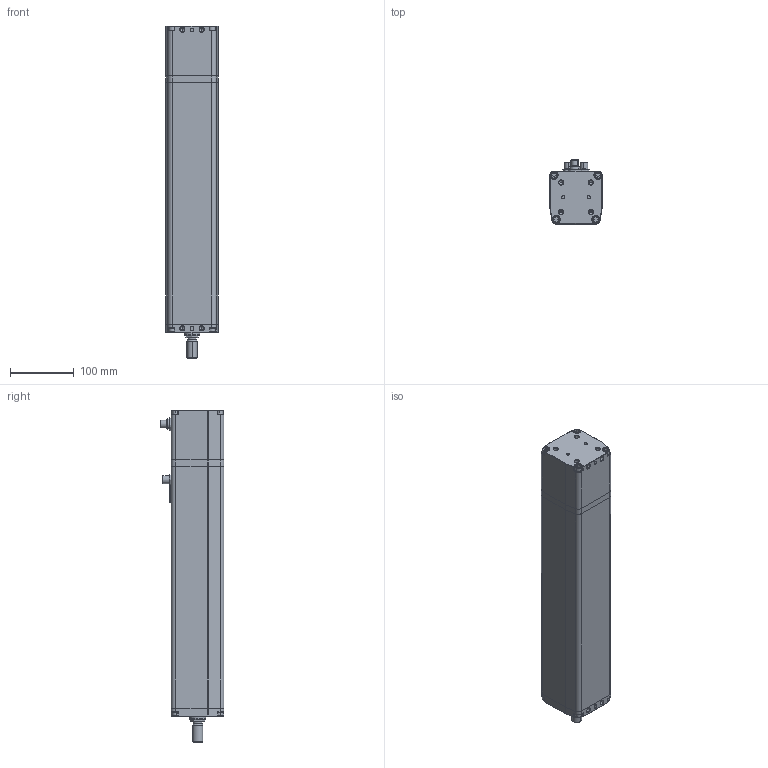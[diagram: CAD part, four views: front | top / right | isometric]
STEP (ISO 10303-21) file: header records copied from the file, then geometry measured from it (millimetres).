
FILE_DESCRIPTION (( 'STEP AP203' ), '1' );
FILE_NAME ('CTC-080-K__-____-_.step', '2023-09-29T09:29:24', ( '' ), ( '' ), 'SwSTEP 2.0', 'SolidWorks 2020', '' );
FILE_SCHEMA (( 'CONFIG_CONTROL_DESIGN' ));
Length unit declared in the file: millimetre
Products named in the file (4): CTC-080-K__-____-_; CTC-080_Aufsatz-A_M16x1.5; CTC-080_Schubrohr_Hub 0300; CTC-080_housing_Hub_0300_Bremse
Assembly tree (3 placements, depth 2):
  CTC-080-K__-____-_
    CTC-080_housing_Hub_0300_Bremse
    CTC-080_Schubrohr_Hub 0300
    CTC-080_Aufsatz-A_M16x1.5
Bounding box: 82 x 99.6 x 519 mm (x, y, z)
Volume: 2846706.1 mm3; surface area: 349659.9 mm2
Topology: 34 solids, 34 shells, 860 faces, 1914 edges, 1187 vertices
Faces by surface type: cylinder 338, plane 326, cone 100, torus 88, sphere 8
Entity records: 24204 total; most frequent: DIRECTION 4484, CARTESIAN_POINT 4163, ORIENTED_EDGE 3780, EDGE_CURVE 1890, AXIS2_PLACEMENT_3D 1776, VERTEX_POINT 1187, EDGE_LOOP 957, VECTOR 932
